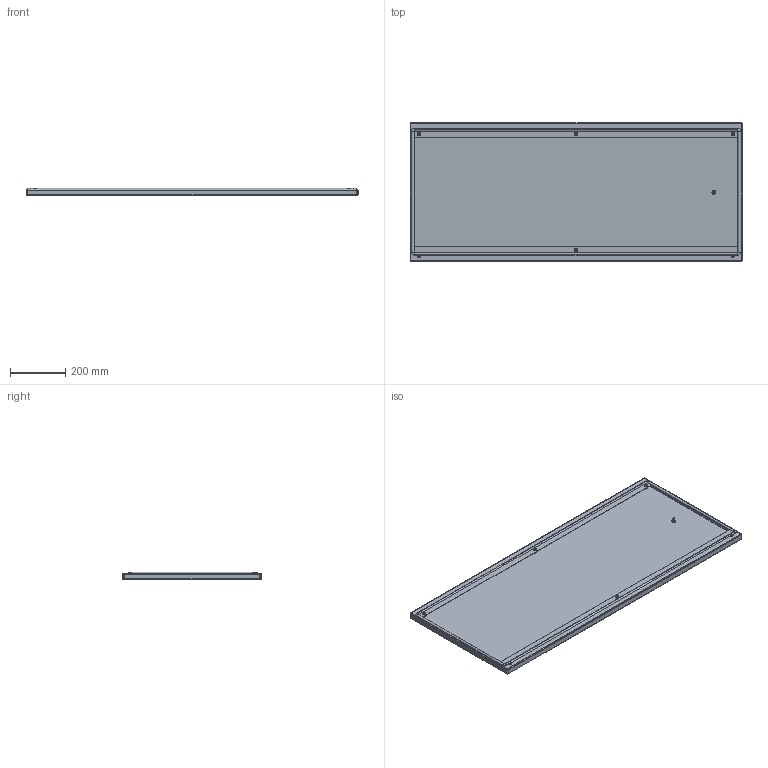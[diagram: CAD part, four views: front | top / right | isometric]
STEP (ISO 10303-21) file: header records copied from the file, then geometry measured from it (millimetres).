
FILE_DESCRIPTION (( 'STEP AP203' ), '1' );
FILE_NAME ('R 120.50 C Ïàíåëü êîíöåâàÿ íèæíåé ÷àñòè.STEP', '2013-01-14T08:30:41', ( 'Àëåêñàíäð' ), ( 'Ïðîâåíòî' ), 'SwSTEP 2.0', 'SolidWorks 2012', '' );
FILE_SCHEMA (( 'CONFIG_CONTROL_DESIGN' ));
Length unit declared in the file: millimetre
Products named in the file (1): R 120.50 C Ïàíåëü êîíöåâàÿ íèæíåé ÷àñòè
Bounding box: 1200 x 500 x 27 mm (x, y, z)
Volume: 1279479.3 mm3; surface area: 1618720.9 mm2
Topology: 3 solids, 3 shells, 200 faces, 446 edges, 274 vertices
Faces by surface type: cylinder 84, plane 54, torus 36, cone 18, sphere 8
Entity records: 5745 total; most frequent: DIRECTION 1112, CARTESIAN_POINT 999, ORIENTED_EDGE 876, AXIS2_PLACEMENT_3D 481, EDGE_CURVE 438, CIRCLE 280, VERTEX_POINT 274, EDGE_LOOP 246
